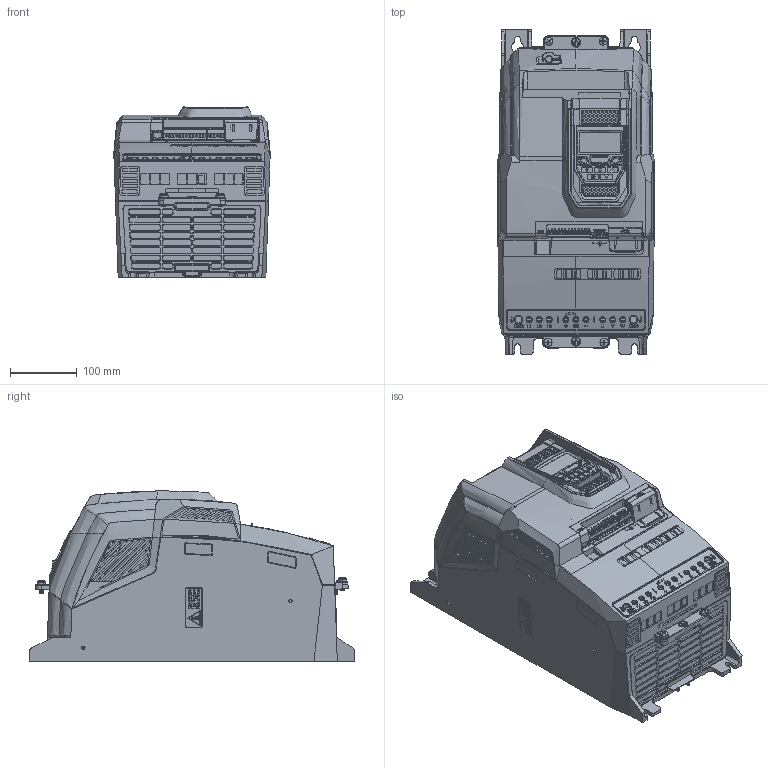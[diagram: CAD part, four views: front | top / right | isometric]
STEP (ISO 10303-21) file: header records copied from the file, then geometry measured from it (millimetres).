
FILE_DESCRIPTION (( 'STEP AP203' ), '1' );
FILE_NAME ('P2.IP20.SIZE5.TFT (ENVELOPE).STEP', '2020-11-20T14:09:26', ( '' ), ( '' ), 'SwSTEP 2.0', 'SolidWorks 2020', '' );
FILE_SCHEMA (( 'CONFIG_CONTROL_DESIGN' ));
Products named in the file (1): P2.IP20.SIZE5.TFT (ENVELOPE)
Bounding box: 234.03 x 486.12 x 254.82 mm (x, y, z)
Volume: 15977651.4 mm3; surface area: 1432969.6 mm2
Topology: 1 solids, 70 shells, 9177 faces, 24269 edges, 15857 vertices
Faces by surface type: plane 4164, bspline 3643, cylinder 1078, cone 227, torus 53, sphere 12
Entity records: 413772 total; most frequent: CARTESIAN_POINT 222875, ORIENTED_EDGE 48430, DIRECTION 24643, EDGE_CURVE 24215, VERTEX_POINT 15857, B_SPLINE_CURVE_WITH_KNOTS 10956, VECTOR 10487, LINE 10487
